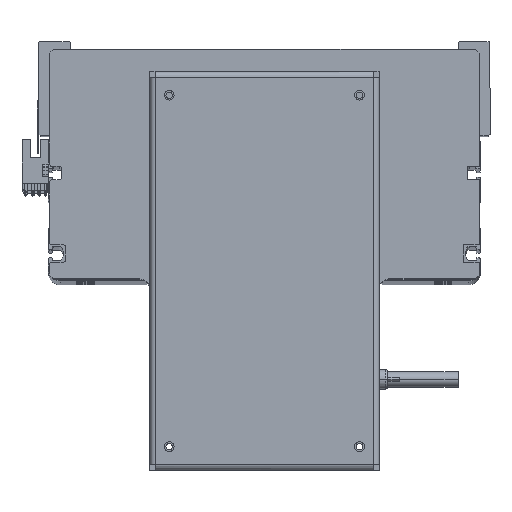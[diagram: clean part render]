
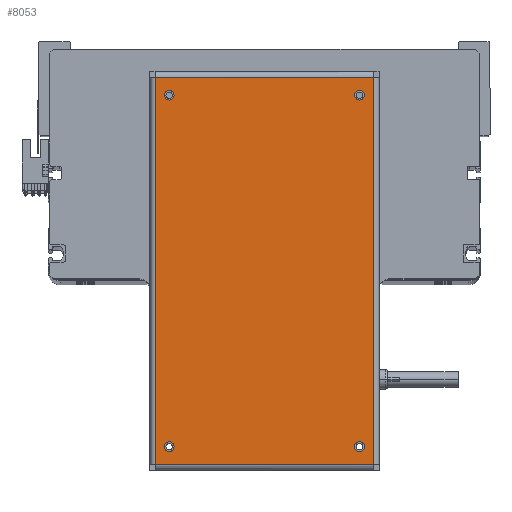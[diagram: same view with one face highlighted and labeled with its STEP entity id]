
A CAD part, top view. The second image highlights one B-rep face of the part: STEP entity #8053.
In plain terms, the highlighted planar face has unit normal (0, 0, 1).
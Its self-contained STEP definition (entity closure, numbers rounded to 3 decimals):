
#174 = ORIENTED_EDGE ( 'NONE', *, *, #2805, .F. ) ;
#465 = AXIS2_PLACEMENT_3D ( 'NONE', #29610, #17056, #39408 ) ;
#1066 = AXIS2_PLACEMENT_3D ( 'NONE', #36493, #20407, #32977 ) ;
#1073 = CIRCLE ( 'NONE', #1066, 2.5 ) ;
#1608 = VERTEX_POINT ( 'NONE', #38962 ) ;
#1785 = AXIS2_PLACEMENT_3D ( 'NONE', #2520, #8841, #37487 ) ;
#1839 = CARTESIAN_POINT ( 'NONE',  ( 92.05, 48.5, 0. ) ) ;
#2294 = EDGE_LOOP ( 'NONE', ( #3100, #174 ) ) ;
#2382 = CARTESIAN_POINT ( 'NONE',  ( 89.55, 48.5, 0. ) ) ;
#2520 = CARTESIAN_POINT ( 'NONE',  ( -89.55, -48.5, 0. ) ) ;
#2692 = ORIENTED_EDGE ( 'NONE', *, *, #4559, .F. ) ;
#2805 = EDGE_CURVE ( 'NONE', #21192, #31144, #25365, .T. ) ;
#2970 = CARTESIAN_POINT ( 'NONE',  ( -89.55, 48.5, 0. ) ) ;
#3000 = AXIS2_PLACEMENT_3D ( 'NONE', #7308, #32848, #14028 ) ;
#3100 = ORIENTED_EDGE ( 'NONE', *, *, #21927, .F. ) ;
#4108 = CARTESIAN_POINT ( 'NONE',  ( 98.65, -55.6, 0. ) ) ;
#4559 = EDGE_CURVE ( 'NONE', #23288, #28111, #1073, .T. ) ;
#4826 = DIRECTION ( 'NONE',  ( 0., 0., 1. ) ) ;
#5186 = VERTEX_POINT ( 'NONE', #4108 ) ;
#5344 = FACE_BOUND ( 'NONE', #29661, .T. ) ;
#5870 = DIRECTION ( 'NONE',  ( 1., 0., 0. ) ) ;
#6370 = FACE_BOUND ( 'NONE', #35831, .T. ) ;
#7308 = CARTESIAN_POINT ( 'NONE',  ( 98.75, 58.5, 0. ) ) ;
#7366 = CIRCLE ( 'NONE', #10027, 2.5 ) ;
#7636 = CARTESIAN_POINT ( 'NONE',  ( -98.65, 55.6, 0. ) ) ;
#8053 = ADVANCED_FACE ( 'NONE', ( #18869, #9376, #5344, #6370, #39399 ), #20404, .F. ) ;
#8349 = EDGE_CURVE ( 'NONE', #8405, #5186, #11315, .T. ) ;
#8383 = AXIS2_PLACEMENT_3D ( 'NONE', #27565, #4826, #34124 ) ;
#8405 = VERTEX_POINT ( 'NONE', #26479 ) ;
#8515 = CIRCLE ( 'NONE', #37008, 2.5 ) ;
#8775 = VERTEX_POINT ( 'NONE', #18522 ) ;
#8841 = DIRECTION ( 'NONE',  ( 0., 0., 1. ) ) ;
#9354 = DIRECTION ( 'NONE',  ( 1., 0., 0. ) ) ;
#9376 = FACE_BOUND ( 'NONE', #11953, .T. ) ;
#10027 = AXIS2_PLACEMENT_3D ( 'NONE', #13157, #22716, #9354 ) ;
#10649 = ORIENTED_EDGE ( 'NONE', *, *, #31948, .T. ) ;
#11090 = AXIS2_PLACEMENT_3D ( 'NONE', #2970, #25299, #28967 ) ;
#11305 = EDGE_CURVE ( 'NONE', #5186, #13590, #21903, .T. ) ;
#11315 = LINE ( 'NONE', #16627, #31771 ) ;
#11953 = EDGE_LOOP ( 'NONE', ( #17833, #18961 ) ) ;
#12332 = DIRECTION ( 'NONE',  ( 0., 0., 1. ) ) ;
#12384 = EDGE_CURVE ( 'NONE', #28111, #23288, #30843, .T. ) ;
#12856 = VECTOR ( 'NONE', #29831, 1000. ) ;
#13157 = CARTESIAN_POINT ( 'NONE',  ( 89.55, 48.5, 0. ) ) ;
#13590 = VERTEX_POINT ( 'NONE', #17994 ) ;
#14028 = DIRECTION ( 'NONE',  ( -1., 0., 0. ) ) ;
#15134 = DIRECTION ( 'NONE',  ( 1., 0., 0. ) ) ;
#16627 = CARTESIAN_POINT ( 'NONE',  ( -98.75, -55.6, 0. ) ) ;
#17056 = DIRECTION ( 'NONE',  ( 0., 0., 1. ) ) ;
#17327 = EDGE_CURVE ( 'NONE', #8775, #39788, #8515, .T. ) ;
#17833 = ORIENTED_EDGE ( 'NONE', *, *, #22179, .F. ) ;
#17994 = CARTESIAN_POINT ( 'NONE',  ( 98.65, 55.6, 0. ) ) ;
#18522 = CARTESIAN_POINT ( 'NONE',  ( 87.05, 48.5, 0. ) ) ;
#18768 = VERTEX_POINT ( 'NONE', #19899 ) ;
#18869 = FACE_BOUND ( 'NONE', #2294, .T. ) ;
#18934 = EDGE_CURVE ( 'NONE', #1608, #8405, #27367, .T. ) ;
#18961 = ORIENTED_EDGE ( 'NONE', *, *, #33463, .F. ) ;
#19314 = CARTESIAN_POINT ( 'NONE',  ( 98.75, 55.6, 0. ) ) ;
#19899 = CARTESIAN_POINT ( 'NONE',  ( -92.05, 48.5, 0. ) ) ;
#20242 = CARTESIAN_POINT ( 'NONE',  ( -87.05, -48.5, 0. ) ) ;
#20404 = PLANE ( 'NONE',  #3000 ) ;
#20407 = DIRECTION ( 'NONE',  ( 0., 0., 1. ) ) ;
#20526 = EDGE_LOOP ( 'NONE', ( #32933, #22411, #23603, #10649 ) ) ;
#20640 = ORIENTED_EDGE ( 'NONE', *, *, #26580, .F. ) ;
#21192 = VERTEX_POINT ( 'NONE', #24188 ) ;
#21903 = LINE ( 'NONE', #33478, #22914 ) ;
#21927 = EDGE_CURVE ( 'NONE', #31144, #21192, #36110, .T. ) ;
#22179 = EDGE_CURVE ( 'NONE', #24038, #18768, #32566, .T. ) ;
#22213 = DIRECTION ( 'NONE',  ( -1., 0., 0. ) ) ;
#22411 = ORIENTED_EDGE ( 'NONE', *, *, #8349, .T. ) ;
#22716 = DIRECTION ( 'NONE',  ( 0., 0., 1. ) ) ;
#22742 = ORIENTED_EDGE ( 'NONE', *, *, #12384, .F. ) ;
#22914 = VECTOR ( 'NONE', #27042, 1000. ) ;
#23005 = LINE ( 'NONE', #19314, #26505 ) ;
#23288 = VERTEX_POINT ( 'NONE', #36015 ) ;
#23603 = ORIENTED_EDGE ( 'NONE', *, *, #11305, .T. ) ;
#24038 = VERTEX_POINT ( 'NONE', #28448 ) ;
#24188 = CARTESIAN_POINT ( 'NONE',  ( -92.05, -48.5, 0. ) ) ;
#25299 = DIRECTION ( 'NONE',  ( 0., 0., 1. ) ) ;
#25365 = CIRCLE ( 'NONE', #1785, 2.5 ) ;
#26479 = CARTESIAN_POINT ( 'NONE',  ( -98.65, -55.6, 0. ) ) ;
#26505 = VECTOR ( 'NONE', #22213, 1000. ) ;
#26580 = EDGE_CURVE ( 'NONE', #39788, #8775, #7366, .T. ) ;
#27042 = DIRECTION ( 'NONE',  ( 0., 1., 0. ) ) ;
#27367 = LINE ( 'NONE', #7636, #12856 ) ;
#27565 = CARTESIAN_POINT ( 'NONE',  ( -89.55, -48.5, 0. ) ) ;
#28111 = VERTEX_POINT ( 'NONE', #33644 ) ;
#28448 = CARTESIAN_POINT ( 'NONE',  ( -87.05, 48.5, 0. ) ) ;
#28967 = DIRECTION ( 'NONE',  ( 1., 0., 0. ) ) ;
#29610 = CARTESIAN_POINT ( 'NONE',  ( 89.55, -48.5, 0. ) ) ;
#29661 = EDGE_LOOP ( 'NONE', ( #22742, #2692 ) ) ;
#29831 = DIRECTION ( 'NONE',  ( 0., -1., 0. ) ) ;
#30843 = CIRCLE ( 'NONE', #465, 2.5 ) ;
#31144 = VERTEX_POINT ( 'NONE', #20242 ) ;
#31771 = VECTOR ( 'NONE', #35590, 1000. ) ;
#31948 = EDGE_CURVE ( 'NONE', #13590, #1608, #23005, .T. ) ;
#32566 = CIRCLE ( 'NONE', #11090, 2.5 ) ;
#32713 = AXIS2_PLACEMENT_3D ( 'NONE', #34787, #37616, #5870 ) ;
#32848 = DIRECTION ( 'NONE',  ( 0., 0., -1. ) ) ;
#32933 = ORIENTED_EDGE ( 'NONE', *, *, #18934, .T. ) ;
#32977 = DIRECTION ( 'NONE',  ( 1., 0., 0. ) ) ;
#33385 = CIRCLE ( 'NONE', #32713, 2.5 ) ;
#33463 = EDGE_CURVE ( 'NONE', #18768, #24038, #33385, .T. ) ;
#33478 = CARTESIAN_POINT ( 'NONE',  ( 98.65, -55.6, 0. ) ) ;
#33644 = CARTESIAN_POINT ( 'NONE',  ( 92.05, -48.5, 0. ) ) ;
#34124 = DIRECTION ( 'NONE',  ( 1., 0., 0. ) ) ;
#34787 = CARTESIAN_POINT ( 'NONE',  ( -89.55, 48.5, 0. ) ) ;
#35590 = DIRECTION ( 'NONE',  ( 1., 0., 0. ) ) ;
#35831 = EDGE_LOOP ( 'NONE', ( #20640, #40752 ) ) ;
#36015 = CARTESIAN_POINT ( 'NONE',  ( 87.05, -48.5, 0. ) ) ;
#36110 = CIRCLE ( 'NONE', #8383, 2.5 ) ;
#36493 = CARTESIAN_POINT ( 'NONE',  ( 89.55, -48.5, 0. ) ) ;
#37008 = AXIS2_PLACEMENT_3D ( 'NONE', #2382, #12332, #15134 ) ;
#37487 = DIRECTION ( 'NONE',  ( 1., 0., 0. ) ) ;
#37616 = DIRECTION ( 'NONE',  ( 0., 0., 1. ) ) ;
#38962 = CARTESIAN_POINT ( 'NONE',  ( -98.65, 55.6, 0. ) ) ;
#39399 = FACE_OUTER_BOUND ( 'NONE', #20526, .T. ) ;
#39408 = DIRECTION ( 'NONE',  ( 1., 0., 0. ) ) ;
#39788 = VERTEX_POINT ( 'NONE', #1839 ) ;
#40752 = ORIENTED_EDGE ( 'NONE', *, *, #17327, .F. ) ;
